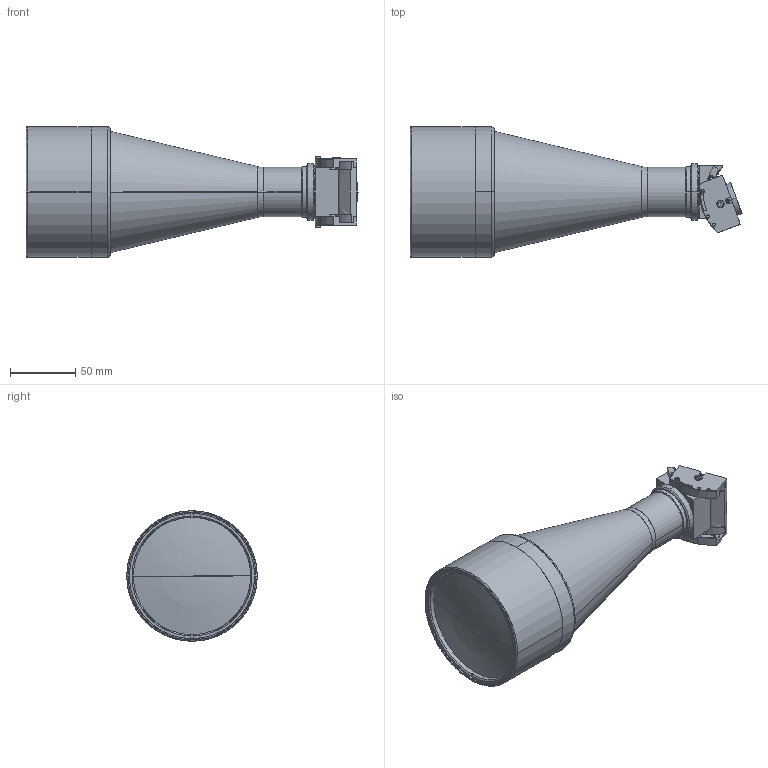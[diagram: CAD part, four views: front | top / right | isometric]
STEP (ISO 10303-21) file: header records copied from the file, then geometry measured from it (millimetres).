
FILE_DESCRIPTION(('LS-TCL-0445'),'2;1');
FILE_NAME('LS-TCL-0445.stp','2026-10-15T21:57:14',('LumaSpec Vision'),('LumaSpec Vision'),'LumaSpec Vision','LumaSpec Vision','');
FILE_SCHEMA(('AUTOMOTIVE_DESIGN { 1 0 10303 214 1 1 1 1 }'));
Length unit declared in the file: millimetre
Products named in the file (323): LumaSpec Vision
Assembly tree (322 placements, depth 2):
  LumaSpec Vision
    LumaSpec Vision
    LumaSpec Vision
    LumaSpec Vision
    LumaSpec Vision
    LumaSpec Vision
    LumaSpec Vision
    LumaSpec Vision
    LumaSpec Vision
    LumaSpec Vision
    LumaSpec Vision
    LumaSpec Vision
    LumaSpec Vision
    LumaSpec Vision
    LumaSpec Vision
    LumaSpec Vision
    LumaSpec Vision
    LumaSpec Vision
    LumaSpec Vision
    LumaSpec Vision
    LumaSpec Vision
    LumaSpec Vision
    LumaSpec Vision
    LumaSpec Vision
    LumaSpec Vision
    LumaSpec Vision
    LumaSpec Vision
    LumaSpec Vision
    LumaSpec Vision
    LumaSpec Vision
    LumaSpec Vision
    LumaSpec Vision
    LumaSpec Vision
    LumaSpec Vision
    LumaSpec Vision
    LumaSpec Vision
    LumaSpec Vision
    LumaSpec Vision
    LumaSpec Vision
    LumaSpec Vision
    LumaSpec Vision
    LumaSpec Vision
    LumaSpec Vision
    LumaSpec Vision
    LumaSpec Vision
    LumaSpec Vision
    LumaSpec Vision
    LumaSpec Vision
    LumaSpec Vision
    LumaSpec Vision
    LumaSpec Vision
    LumaSpec Vision
    LumaSpec Vision
    LumaSpec Vision
    LumaSpec Vision
    LumaSpec Vision
    LumaSpec Vision
    LumaSpec Vision
    LumaSpec Vision
    LumaSpec Vision
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Bounding box: 254.65 x 100 x 100 mm (x, y, z)
Surface area: 84912.7 mm2 (no closed solid volume)
Topology: 0 solids, 322 shells, 322 faces, 4935 edges, 4928 vertices
Faces by surface type: bspline 177, revolution 145
Entity records: 83376 total; most frequent: CARTESIAN_POINT 32380, B_SPLINE_CURVE_WITH_KNOTS 8391, ORIENTED_EDGE 4928, EDGE_CURVE 4928, VERTEX_POINT 4928, SURFACE_CURVE 4928, PCURVE 4928, DEFINITIONAL_REPRESENTATION 4928
